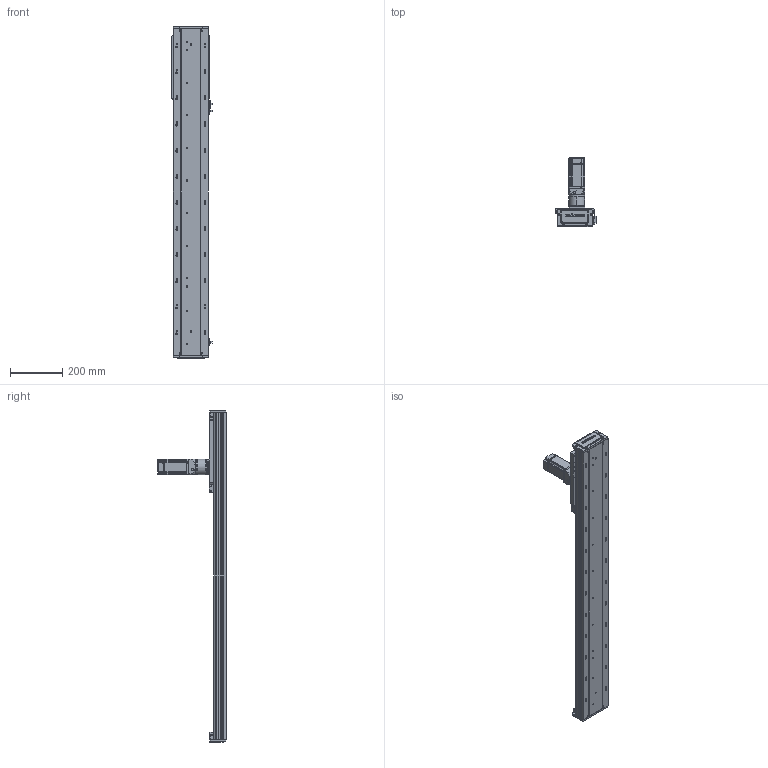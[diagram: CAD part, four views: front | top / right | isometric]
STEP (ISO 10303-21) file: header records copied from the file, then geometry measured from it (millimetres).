
FILE_DESCRIPTION (( 'STEP AP203' ), '1' );
FILE_NAME ('RY140-C-250-UK.SLDASM_900.step', '2022-03-12T01:58:38', ( '' ), ( '' ), 'SwSTEP 2.0', 'SolidWorks 2016', '' );
FILE_SCHEMA (( 'CONFIG_CONTROL_DESIGN' ));
Length unit declared in the file: millimetre
Products named in the file (12): RY140-300齿条模组型材底座_900; RY140-絳寢EGH15-300-MK_900; RY140-喘沭裔啣; 60ZDF珨撰俋倛芞T1 200W M4; 覜茼ん672; RY140-喘謫萇儂覃誹啣; RY140-喘沭賑輸; 140蚥薯蝶輸; RY140-C-250-UK.SLDASM_900; 絳寢賑輸EGH15; 15; RY120外置感应片(140共用）
Assembly tree (21 placements, depth 2):
  RY140-C-250-UK.SLDASM_900
    RY140-300齿条模组型材底座_900
    RY140-絳寢EGH15-300-MK_900  x2
    絳寢賑輸EGH15  x6
    RY140-喘沭裔啣  x2
    覜茼ん672  x3
    RY140-喘沭賑輸
    RY120外置感应片(140共用）
    RY140-喘謫萇儂覃誹啣
    140蚥薯蝶輸  x2
    60ZDF珨撰俋倛芞T1 200W M4
    15
Bounding box: 153.7 x 263.5 x 1272 mm (x, y, z)
Volume: 4809937.8 mm3; surface area: 1246011.6 mm2
Topology: 21 solids, 21 shells, 3352 faces, 8882 edges, 5748 vertices
Faces by surface type: plane 1640, cylinder 1434, cone 232, bspline 46
Entity records: 74265 total; most frequent: CARTESIAN_POINT 16019, DIRECTION 11865, ORIENTED_EDGE 11778, EDGE_CURVE 5889, AXIS2_PLACEMENT_3D 4211, VERTEX_POINT 3853, LINE 3443, VECTOR 3443
